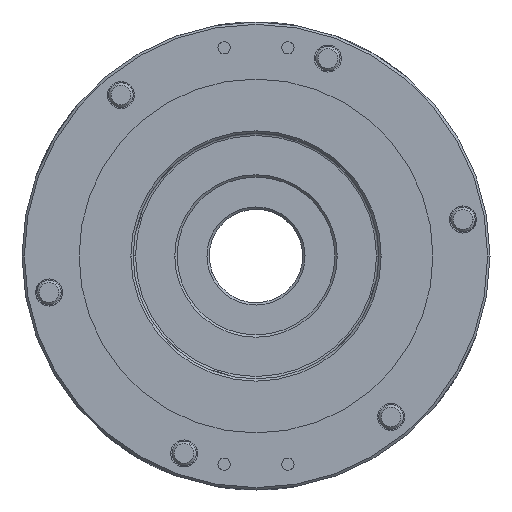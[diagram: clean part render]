
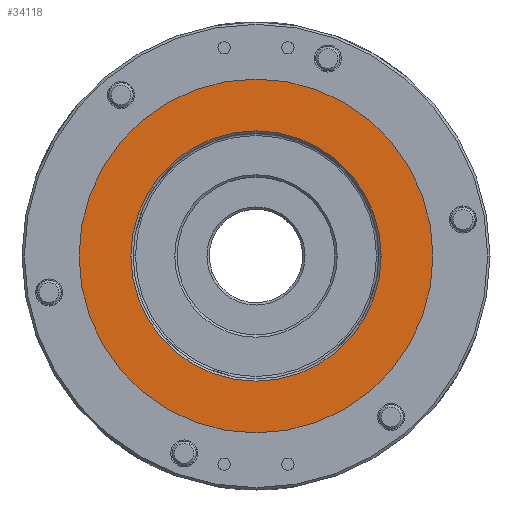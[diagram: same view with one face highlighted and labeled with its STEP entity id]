
A CAD part, front view. The second image highlights one B-rep face of the part: STEP entity #34118.
In plain terms, the highlighted planar face has unit normal (0, -1, 0) as drawn and (0, 0, -1) by its records, which use the part's own axes.
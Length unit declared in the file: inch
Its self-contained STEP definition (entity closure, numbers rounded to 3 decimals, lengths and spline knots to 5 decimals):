
#546 = EDGE_CURVE ( 'NONE', #43020, #35946, #15569, .T. ) ;
#1553 = ORIENTED_EDGE ( 'NONE', *, *, #546, .T. ) ;
#3287 = DIRECTION ( 'NONE',  ( 0., 1., 0. ) ) ;
#7146 = DIRECTION ( 'NONE',  ( 0., 0., -1. ) ) ;
#7572 = AXIS2_PLACEMENT_3D ( 'NONE', #8182, #7146, #3287 ) ;
#8182 = CARTESIAN_POINT ( 'NONE',  ( 1.5615, 0., 0.062 ) ) ;
#8219 = DIRECTION ( 'NONE',  ( 0., 0., -1. ) ) ;
#8226 = DIRECTION ( 'NONE',  ( 0., 0., -1. ) ) ;
#11823 = CARTESIAN_POINT ( 'NONE',  ( 0., 0., 0.062 ) ) ;
#15373 = EDGE_LOOP ( 'NONE', ( #29931, #49895 ) ) ;
#15569 = CIRCLE ( 'NONE', #38687, 2.25 ) ;
#18215 = AXIS2_PLACEMENT_3D ( 'NONE', #18505, #50849, #35284 ) ;
#18505 = CARTESIAN_POINT ( 'NONE',  ( 0., 0., 0.062 ) ) ;
#19328 = EDGE_CURVE ( 'NONE', #41873, #39578, #21764, .T. ) ;
#21764 = CIRCLE ( 'NONE', #50666, 1.5915 ) ;
#23134 = AXIS2_PLACEMENT_3D ( 'NONE', #39786, #8226, #50936 ) ;
#23824 = EDGE_CURVE ( 'NONE', #35946, #43020, #33831, .T. ) ;
#26873 = FACE_BOUND ( 'NONE', #15373, .T. ) ;
#27887 = PLANE ( 'NONE',  #7572 ) ;
#28545 = EDGE_LOOP ( 'NONE', ( #1553, #32283 ) ) ;
#29931 = ORIENTED_EDGE ( 'NONE', *, *, #19328, .T. ) ;
#30496 = CARTESIAN_POINT ( 'NONE',  ( 0., -1.5915, 0.062 ) ) ;
#32283 = ORIENTED_EDGE ( 'NONE', *, *, #23824, .T. ) ;
#33831 = CIRCLE ( 'NONE', #23134, 2.25 ) ;
#34118 = ADVANCED_FACE ( 'NONE', ( #26873, #50637 ), #27887, .T. ) ;
#34756 = CARTESIAN_POINT ( 'NONE',  ( 0., 2.25, 0.062 ) ) ;
#35284 = DIRECTION ( 'NONE',  ( 0., 1., 0. ) ) ;
#35946 = VERTEX_POINT ( 'NONE', #49804 ) ;
#38687 = AXIS2_PLACEMENT_3D ( 'NONE', #11823, #8219, #43154 ) ;
#39578 = VERTEX_POINT ( 'NONE', #30496 ) ;
#39786 = CARTESIAN_POINT ( 'NONE',  ( 0., 0., 0.062 ) ) ;
#41873 = VERTEX_POINT ( 'NONE', #45091 ) ;
#43020 = VERTEX_POINT ( 'NONE', #34756 ) ;
#43154 = DIRECTION ( 'NONE',  ( 0., 1., 0. ) ) ;
#43450 = DIRECTION ( 'NONE',  ( 0., 1., 0. ) ) ;
#45091 = CARTESIAN_POINT ( 'NONE',  ( 0., 1.5915, 0.062 ) ) ;
#45780 = EDGE_CURVE ( 'NONE', #39578, #41873, #47184, .T. ) ;
#46807 = DIRECTION ( 'NONE',  ( 0., 0., 1. ) ) ;
#47184 = CIRCLE ( 'NONE', #18215, 1.5915 ) ;
#49804 = CARTESIAN_POINT ( 'NONE',  ( 0., -2.25, 0.062 ) ) ;
#49895 = ORIENTED_EDGE ( 'NONE', *, *, #45780, .T. ) ;
#50637 = FACE_OUTER_BOUND ( 'NONE', #28545, .T. ) ;
#50666 = AXIS2_PLACEMENT_3D ( 'NONE', #50718, #46807, #43450 ) ;
#50718 = CARTESIAN_POINT ( 'NONE',  ( 0., 0., 0.062 ) ) ;
#50849 = DIRECTION ( 'NONE',  ( 0., 0., 1. ) ) ;
#50936 = DIRECTION ( 'NONE',  ( 0., 1., 0. ) ) ;
